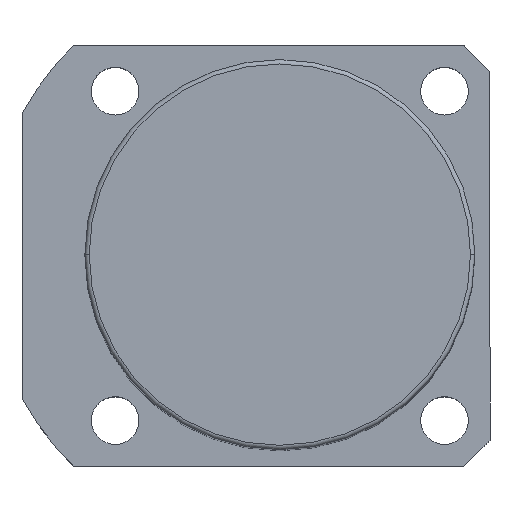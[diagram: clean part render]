
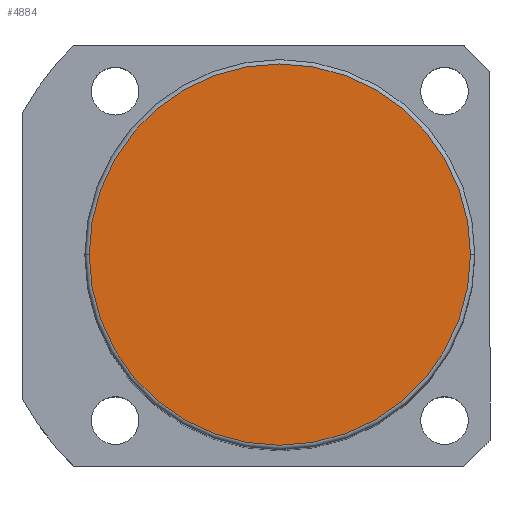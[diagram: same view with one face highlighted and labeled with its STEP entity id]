
A CAD part, top view. The second image highlights one B-rep face of the part: STEP entity #4884.
In plain terms, the highlighted planar face has unit normal (0, 0, 1).
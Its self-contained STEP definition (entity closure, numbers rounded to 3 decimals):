
#90 = ORIENTED_EDGE ( 'NONE', *, *, #3892, .T. ) ;
#212 = CIRCLE ( 'NONE', #1486, 44. ) ;
#320 = CARTESIAN_POINT ( 'NONE',  ( 0., 0., 181.5 ) ) ;
#475 = CARTESIAN_POINT ( 'NONE',  ( 0., 0., 181.5 ) ) ;
#605 = CARTESIAN_POINT ( 'NONE',  ( -44., 0., 181.5 ) ) ;
#873 = DIRECTION ( 'NONE',  ( 1., 0., 0. ) ) ;
#1031 = DIRECTION ( 'NONE',  ( 1., 0., 0. ) ) ;
#1058 = AXIS2_PLACEMENT_3D ( 'NONE', #2433, #6858, #3529 ) ;
#1169 = FACE_OUTER_BOUND ( 'NONE', #2732, .T. ) ;
#1486 = AXIS2_PLACEMENT_3D ( 'NONE', #320, #4193, #873 ) ;
#1699 = CARTESIAN_POINT ( 'NONE',  ( 44., 0., 181.5 ) ) ;
#1727 = EDGE_CURVE ( 'NONE', #5397, #4853, #4092, .T. ) ;
#2433 = CARTESIAN_POINT ( 'NONE',  ( 0., 0., 181.5 ) ) ;
#2732 = EDGE_LOOP ( 'NONE', ( #4152, #90 ) ) ;
#3529 = DIRECTION ( 'NONE',  ( 1., 0., 0. ) ) ;
#3892 = EDGE_CURVE ( 'NONE', #4853, #5397, #212, .T. ) ;
#4092 = CIRCLE ( 'NONE', #4756, 44. ) ;
#4152 = ORIENTED_EDGE ( 'NONE', *, *, #1727, .T. ) ;
#4193 = DIRECTION ( 'NONE',  ( 0., 0., 1. ) ) ;
#4351 = DIRECTION ( 'NONE',  ( 0., 0., 1. ) ) ;
#4756 = AXIS2_PLACEMENT_3D ( 'NONE', #475, #4351, #1031 ) ;
#4853 = VERTEX_POINT ( 'NONE', #605 ) ;
#4884 = ADVANCED_FACE ( 'NONE', ( #1169 ), #6299, .T. ) ;
#5397 = VERTEX_POINT ( 'NONE', #1699 ) ;
#6299 = PLANE ( 'NONE',  #1058 ) ;
#6858 = DIRECTION ( 'NONE',  ( 0., 0., 1. ) ) ;
